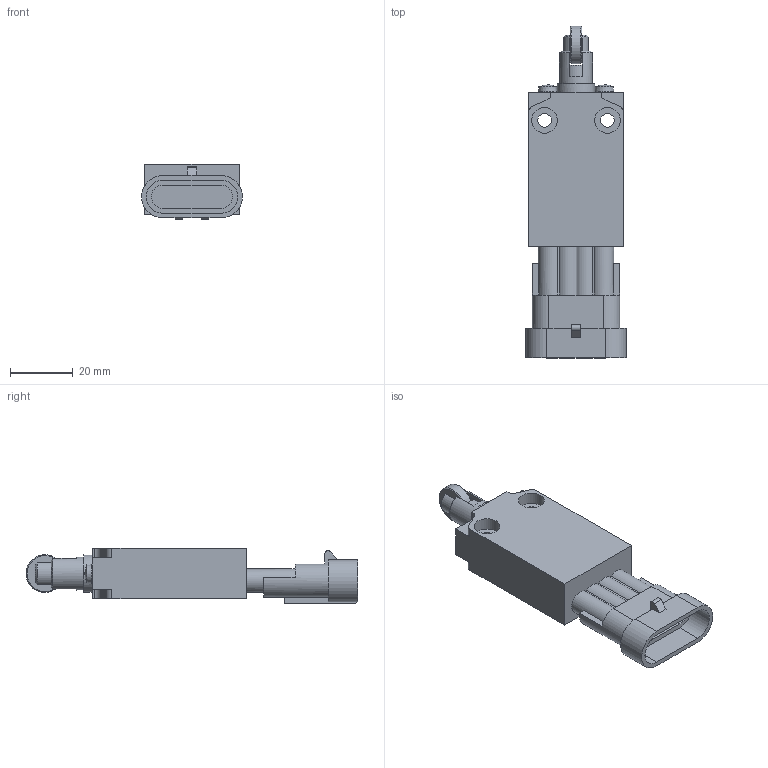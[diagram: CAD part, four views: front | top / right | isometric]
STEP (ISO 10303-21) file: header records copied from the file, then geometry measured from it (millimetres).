
FILE_DESCRIPTION(/* description */ (''),/* implementation_level */ '2;1');
FILE_NAME(/* name */ 'C:\Users\servizio.tecnico\Desktop\CADENAS\3D\EP1_STP\STP_EP1_G14A.stp',/* time_stamp */ '2017-09-04T09:37:11+02:00',/* author */ ('servizio.tecnico'),/* organization */ (''),/* preprocessor_version */ 'ST-DEVELOPER v16.1',/* originating_system */ 'Autodesk Inventor 2016',/* authorisation */ '');
FILE_SCHEMA (('AUTOMOTIVE_DESIGN { 1 0 10303 214 3 1 1 }'));
Length unit declared in the file: millimetre
Products named in the file (3): Product; EP1G14-A; BASE ASSI 
Assembly tree (2 placements, depth 3):
  BASE ASSI 
    EP1G14-A
      Product
Bounding box: 32 x 105.5 x 17.5 mm (x, y, z)
Volume: 29617 mm3; surface area: 12696.6 mm2
Topology: 4 solids, 4 shells, 168 faces, 436 edges, 285 vertices
Faces by surface type: plane 102, cylinder 50, cone 12, sphere 2, torus 2
Full cylindrical faces by diameter (mm): 4.4 x2, 5.6 x2, 7.95 x1, 8.05 x1, 8.2 x4, 10.5 x1, 12 x2
Entity records: 5108 total; most frequent: CARTESIAN_POINT 883, DIRECTION 872, ORIENTED_EDGE 808, EDGE_CURVE 404, AXIS2_PLACEMENT_3D 311, VERTEX_POINT 274, LINE 250, VECTOR 250
